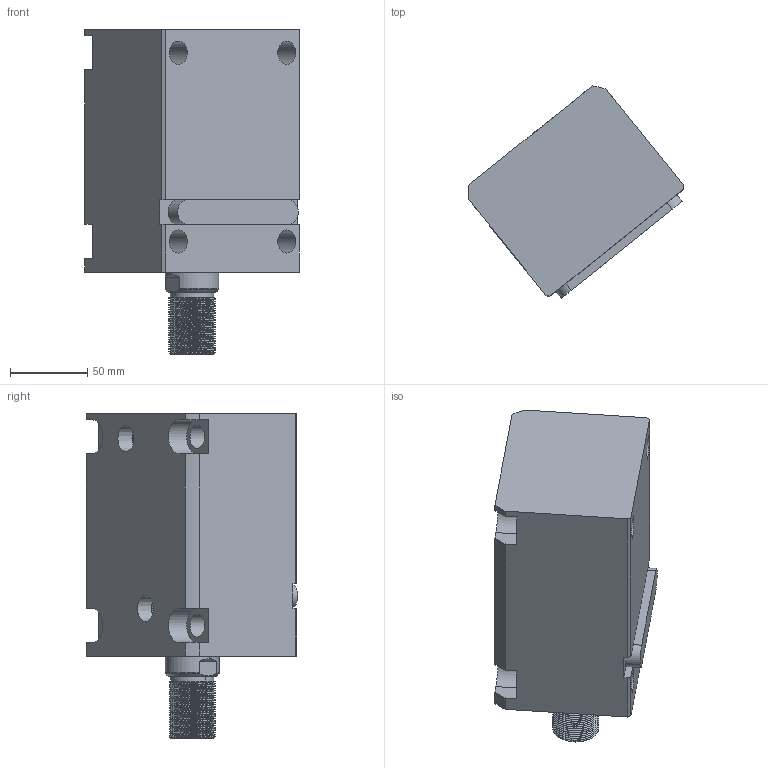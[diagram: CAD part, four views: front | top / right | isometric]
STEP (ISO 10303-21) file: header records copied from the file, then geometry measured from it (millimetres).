
FILE_DESCRIPTION (( 'STEP AP214' ), '1' );
FILE_NAME ('chtb-la63x90w_asm.STEP', '2018-05-17T03:11:15', ( 'Windows' ), ( 'Microsoft' ), 'SwSTEP 2.0', 'SolidWorks 2015', '' );
FILE_SCHEMA (( 'AUTOMOTIVE_DESIGN' ));
Length unit declared in the file: millimetre
Products named in the file (5): CHTB-LA63X90NBT; CHTB-LA63PJ; CHTB63X90WHSG; CHTB-63QG; chtb-la63x90w_asm
Assembly tree (4 placements, depth 2):
  chtb-la63x90w_asm
    CHTB-63QG
    CHTB63X90WHSG
    CHTB-LA63PJ
    CHTB-LA63X90NBT
Bounding box: 138.96 x 137.04 x 210 mm (x, y, z)
Volume: 1356213.7 mm3; surface area: 185337.3 mm2
Topology: 4 solids, 4 shells, 228 faces, 670 edges, 457 vertices
Faces by surface type: cylinder 147, plane 48, bspline 14, cone 13, torus 6
Entity records: 22769 total; most frequent: CARTESIAN_POINT 17126, ORIENTED_EDGE 1332, DIRECTION 940, EDGE_CURVE 666, VERTEX_POINT 457, AXIS2_PLACEMENT_3D 350, EDGE_LOOP 253, LINE 240
